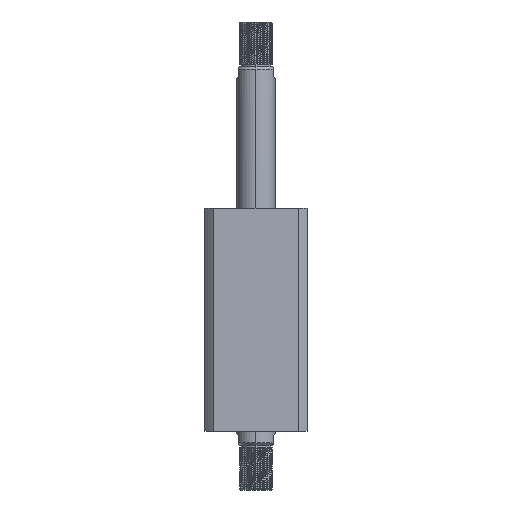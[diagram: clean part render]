
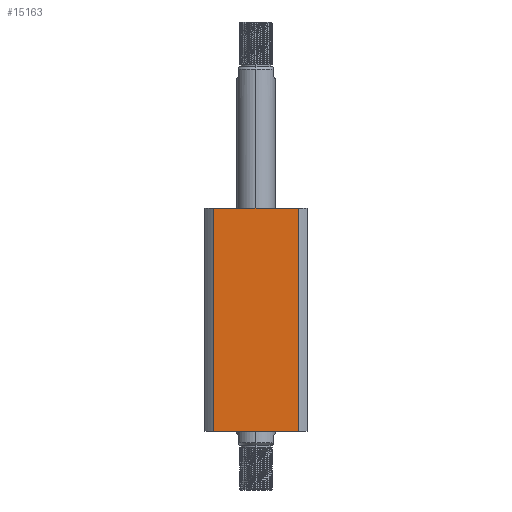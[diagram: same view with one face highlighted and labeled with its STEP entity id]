
A CAD part, left-side view. The second image highlights one B-rep face of the part: STEP entity #15163.
In plain terms, the highlighted planar face has unit normal (-1, 0, 0).
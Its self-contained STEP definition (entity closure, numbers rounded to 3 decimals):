
#117 = PLANE ( 'NONE',  #17241 ) ;
#184 = ORIENTED_EDGE ( 'NONE', *, *, #12557, .F. ) ;
#1165 = FACE_OUTER_BOUND ( 'NONE', #4404, .T. ) ;
#1685 = VERTEX_POINT ( 'NONE', #12988 ) ;
#2300 = LINE ( 'NONE', #14181, #4889 ) ;
#2756 = DIRECTION ( 'NONE',  ( 0., 0., -1. ) ) ;
#3797 = CARTESIAN_POINT ( 'NONE',  ( -40., 33.226, 87.5 ) ) ;
#4404 = EDGE_LOOP ( 'NONE', ( #17528, #11669, #184, #16263 ) ) ;
#4889 = VECTOR ( 'NONE', #15553, 1000. ) ;
#5398 = CARTESIAN_POINT ( 'NONE',  ( -40., 33.226, 87.5 ) ) ;
#8051 = CARTESIAN_POINT ( 'NONE',  ( -40., 33.226, -87.5 ) ) ;
#8115 = DIRECTION ( 'NONE',  ( 1., 0., 0. ) ) ;
#8389 = CARTESIAN_POINT ( 'NONE',  ( -40., 33.226, 87.5 ) ) ;
#8399 = VECTOR ( 'NONE', #2756, 1000. ) ;
#8932 = EDGE_CURVE ( 'NONE', #15203, #14575, #14250, .T. ) ;
#9803 = EDGE_CURVE ( 'NONE', #1685, #14575, #2300, .T. ) ;
#10072 = CARTESIAN_POINT ( 'NONE',  ( -40., -33.226, -87.5 ) ) ;
#10804 = DIRECTION ( 'NONE',  ( 0., -1., 0. ) ) ;
#10980 = DIRECTION ( 'NONE',  ( 0., 1., 0. ) ) ;
#10983 = CARTESIAN_POINT ( 'NONE',  ( -40., 33.226, -87.5 ) ) ;
#11669 = ORIENTED_EDGE ( 'NONE', *, *, #9803, .F. ) ;
#11847 = VECTOR ( 'NONE', #16236, 1000. ) ;
#11974 = CARTESIAN_POINT ( 'NONE',  ( -40., 33.226, 87.5 ) ) ;
#12557 = EDGE_CURVE ( 'NONE', #14047, #1685, #17423, .T. ) ;
#12988 = CARTESIAN_POINT ( 'NONE',  ( -40., -33.226, 87.5 ) ) ;
#14042 = VECTOR ( 'NONE', #10804, 1000. ) ;
#14047 = VERTEX_POINT ( 'NONE', #11974 ) ;
#14181 = CARTESIAN_POINT ( 'NONE',  ( -40., -33.226, 87.5 ) ) ;
#14250 = LINE ( 'NONE', #10983, #14042 ) ;
#14575 = VERTEX_POINT ( 'NONE', #10072 ) ;
#15163 = ADVANCED_FACE ( 'NONE', ( #1165 ), #117, .F. ) ;
#15203 = VERTEX_POINT ( 'NONE', #8051 ) ;
#15553 = DIRECTION ( 'NONE',  ( 0., 0., -1. ) ) ;
#15859 = EDGE_CURVE ( 'NONE', #14047, #15203, #16079, .T. ) ;
#16079 = LINE ( 'NONE', #8389, #8399 ) ;
#16236 = DIRECTION ( 'NONE',  ( 0., -1., 0. ) ) ;
#16263 = ORIENTED_EDGE ( 'NONE', *, *, #15859, .T. ) ;
#17241 = AXIS2_PLACEMENT_3D ( 'NONE', #5398, #8115, #10980 ) ;
#17423 = LINE ( 'NONE', #3797, #11847 ) ;
#17528 = ORIENTED_EDGE ( 'NONE', *, *, #8932, .T. ) ;
